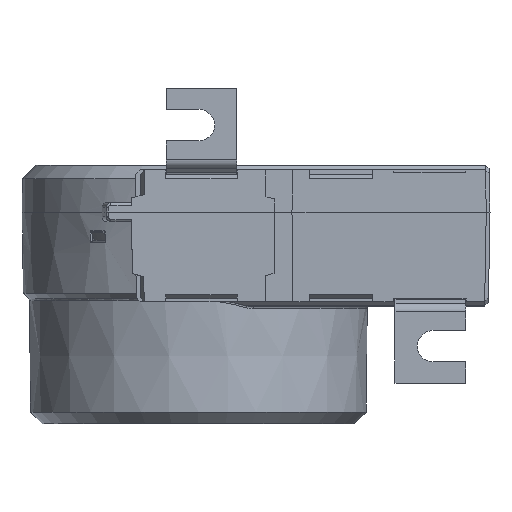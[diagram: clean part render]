
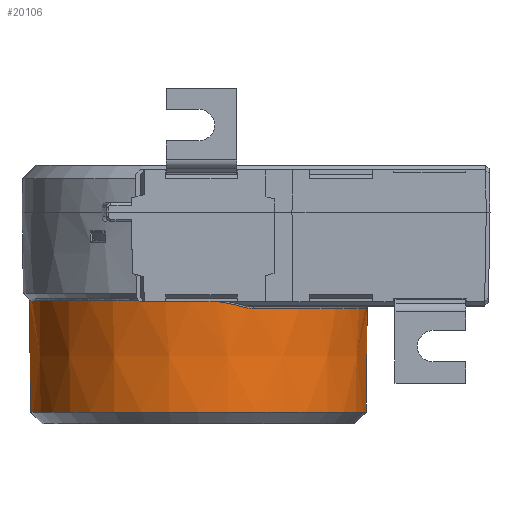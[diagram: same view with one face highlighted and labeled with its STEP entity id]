
A CAD part, front view. The second image highlights one B-rep face of the part: STEP entity #20106.
In plain terms, the highlighted conical face has half-angle 0.5 degrees and reference radius 35.9 mm.
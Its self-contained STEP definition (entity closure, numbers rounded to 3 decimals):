
#805 = CARTESIAN_POINT ( 'NONE',  ( 11.377, -34.032, -15.496 ) ) ;
#818 = CARTESIAN_POINT ( 'NONE',  ( -12.354, -33.703, -14. ) ) ;
#956 = CARTESIAN_POINT ( 'NONE',  ( 11.12, -34.117, -15.479 ) ) ;
#1641 = EDGE_CURVE ( 'NONE', #17743, #31582, #29715, .T. ) ;
#2615 = CARTESIAN_POINT ( 'NONE',  ( -35.691, 0., -37.5 ) ) ;
#2786 = CARTESIAN_POINT ( 'NONE',  ( 35.883, 0., -15.496 ) ) ;
#2909 = VERTEX_POINT ( 'NONE', #5251 ) ;
#3012 = EDGE_CURVE ( 'NONE', #21436, #17743, #22492, .T. ) ;
#3211 = DIRECTION ( 'NONE',  ( 0., 0., 1. ) ) ;
#3771 = ORIENTED_EDGE ( 'NONE', *, *, #8050, .T. ) ;
#4131 = AXIS2_PLACEMENT_3D ( 'NONE', #18242, #40148, #21369 ) ;
#4136 = CARTESIAN_POINT ( 'NONE',  ( 10.609, -34.28, -15.414 ) ) ;
#4791 = B_SPLINE_CURVE_WITH_KNOTS ( 'NONE', 3,
 ( #39857, #8620, #15046, #36994, #18219, #40120 ),
 .UNSPECIFIED., .F., .F.,
 ( 4, 2, 4 ),
 ( 0., 0.003, 0.007 ),
 .UNSPECIFIED. ) ;
#5155 = EDGE_LOOP ( 'NONE', ( #3771, #11782, #20679, #7022, #23861, #21963, #21594, #18803, #38253 ) ) ;
#5251 = CARTESIAN_POINT ( 'NONE',  ( 35.691, 0., -37.5 ) ) ;
#7022 = ORIENTED_EDGE ( 'NONE', *, *, #12647, .T. ) ;
#7170 = LINE ( 'NONE', #19021, #11537 ) ;
#7174 = CARTESIAN_POINT ( 'NONE',  ( -12.421, -33.679, -13.935 ) ) ;
#7308 = CARTESIAN_POINT ( 'NONE',  ( 10.104, -34.432, -15.291 ) ) ;
#8050 = EDGE_CURVE ( 'NONE', #9800, #2909, #9707, .T. ) ;
#8620 = CARTESIAN_POINT ( 'NONE',  ( 9.077, -34.737, -14.982 ) ) ;
#8854 = CIRCLE ( 'NONE', #4131, 35.896 ) ;
#9680 = DIRECTION ( 'NONE',  ( -1., 0., 0. ) ) ;
#9707 = CIRCLE ( 'NONE', #22210, 35.691 ) ;
#9800 = VERTEX_POINT ( 'NONE', #2615 ) ;
#10224 = EDGE_CURVE ( 'NONE', #2909, #37218, #7170, .T. ) ;
#10311 = CARTESIAN_POINT ( 'NONE',  ( -12.556, -33.63, -13.805 ) ) ;
#11070 = DIRECTION ( 'NONE',  ( 0., 0., -1. ) ) ;
#11290 = CARTESIAN_POINT ( 'NONE',  ( -35.9, 0., -13.5 ) ) ;
#11537 = VECTOR ( 'NONE', #37818, 1000. ) ;
#11782 = ORIENTED_EDGE ( 'NONE', *, *, #10224, .T. ) ;
#12647 = EDGE_CURVE ( 'NONE', #29424, #26391, #16906, .T. ) ;
#13317 = CARTESIAN_POINT ( 'NONE',  ( -35.897, 0., -13.805 ) ) ;
#14497 = CARTESIAN_POINT ( 'NONE',  ( -12.354, -33.703, -14. ) ) ;
#15046 = CARTESIAN_POINT ( 'NONE',  ( 8.025, -34.998, -14.718 ) ) ;
#15728 = VERTEX_POINT ( 'NONE', #26231 ) ;
#15857 = DIRECTION ( 'NONE',  ( 0., 0., 1. ) ) ;
#16593 = LINE ( 'NONE', #11290, #32276 ) ;
#16613 = CARTESIAN_POINT ( 'NONE',  ( 0., 0., -15.496 ) ) ;
#16906 = B_SPLINE_CURVE_WITH_KNOTS ( 'NONE', 3,
 ( #22778, #805, #956, #4136, #26049, #7308 ),
 .UNSPECIFIED., .F., .F.,
 ( 4, 2, 4 ),
 ( 0., 0.001, 0.002 ),
 .UNSPECIFIED. ) ;
#17743 = VERTEX_POINT ( 'NONE', #34290 ) ;
#17881 = CARTESIAN_POINT ( 'NONE',  ( 10.104, -34.432, -15.291 ) ) ;
#18211 = EDGE_CURVE ( 'NONE', #15728, #21436, #8854, .T. ) ;
#18219 = CARTESIAN_POINT ( 'NONE',  ( 4.794, -35.59, -14.117 ) ) ;
#18242 = CARTESIAN_POINT ( 'NONE',  ( 0., 0., -14. ) ) ;
#18803 = ORIENTED_EDGE ( 'NONE', *, *, #1641, .T. ) ;
#19021 = CARTESIAN_POINT ( 'NONE',  ( 35.9, 0., -13.5 ) ) ;
#19661 = CIRCLE ( 'NONE', #33374, 35.883 ) ;
#19776 = DIRECTION ( 'NONE',  ( 1., 0., 0. ) ) ;
#20106 = ADVANCED_FACE ( 'NONE', ( #30259 ), #37629, .T. ) ;
#20679 = ORIENTED_EDGE ( 'NONE', *, *, #27842, .T. ) ;
#21369 = DIRECTION ( 'NONE',  ( 1., 0., 0. ) ) ;
#21436 = VERTEX_POINT ( 'NONE', #14497 ) ;
#21594 = ORIENTED_EDGE ( 'NONE', *, *, #3012, .T. ) ;
#21963 = ORIENTED_EDGE ( 'NONE', *, *, #18211, .T. ) ;
#21998 = CARTESIAN_POINT ( 'NONE',  ( 0., 0., -37.5 ) ) ;
#22210 = AXIS2_PLACEMENT_3D ( 'NONE', #21998, #3211, #25141 ) ;
#22492 =( BOUNDED_CURVE ( )  B_SPLINE_CURVE ( 3, ( #818, #7174, #29070, #10311 ),
 .UNSPECIFIED., .F., .F. ) 
 B_SPLINE_CURVE_WITH_KNOTS ( ( 4, 4 ),
 ( 5.056, 5.062 ),
 .UNSPECIFIED. ) 
 CURVE ( )  GEOMETRIC_REPRESENTATION_ITEM ( )  RATIONAL_B_SPLINE_CURVE ( ( 1., 1., 1., 1. ) ) 
 REPRESENTATION_ITEM ( '' )  );
#22778 = CARTESIAN_POINT ( 'NONE',  ( 11.634, -33.944, -15.496 ) ) ;
#23861 = ORIENTED_EDGE ( 'NONE', *, *, #40324, .T. ) ;
#25141 = DIRECTION ( 'NONE',  ( 1., 0., 0. ) ) ;
#25284 = CARTESIAN_POINT ( 'NONE',  ( 0., 0., -13.5 ) ) ;
#25967 = AXIS2_PLACEMENT_3D ( 'NONE', #25284, #15857, #9680 ) ;
#26049 = CARTESIAN_POINT ( 'NONE',  ( 10.355, -34.358, -15.366 ) ) ;
#26231 = CARTESIAN_POINT ( 'NONE',  ( 3.691, -35.705, -14. ) ) ;
#26391 = VERTEX_POINT ( 'NONE', #17881 ) ;
#27842 = EDGE_CURVE ( 'NONE', #37218, #29424, #19661, .T. ) ;
#29070 = CARTESIAN_POINT ( 'NONE',  ( -12.488, -33.654, -13.87 ) ) ;
#29424 = VERTEX_POINT ( 'NONE', #34234 ) ;
#29715 = CIRCLE ( 'NONE', #40709, 35.897 ) ;
#29842 = CARTESIAN_POINT ( 'NONE',  ( 0., 0., -13.805 ) ) ;
#30060 = DIRECTION ( 'NONE',  ( -0.009, 0., 1. ) ) ;
#30150 = EDGE_CURVE ( 'NONE', #9800, #31582, #16593, .T. ) ;
#30259 = FACE_OUTER_BOUND ( 'NONE', #5155, .T. ) ;
#31582 = VERTEX_POINT ( 'NONE', #13317 ) ;
#32276 = VECTOR ( 'NONE', #30060, 1000. ) ;
#32992 = DIRECTION ( 'NONE',  ( 1., 0., 0. ) ) ;
#33374 = AXIS2_PLACEMENT_3D ( 'NONE', #16613, #38558, #19776 ) ;
#34234 = CARTESIAN_POINT ( 'NONE',  ( 11.634, -33.944, -15.496 ) ) ;
#34290 = CARTESIAN_POINT ( 'NONE',  ( -12.556, -33.63, -13.805 ) ) ;
#36994 = CARTESIAN_POINT ( 'NONE',  ( 5.886, -35.424, -14.285 ) ) ;
#37218 = VERTEX_POINT ( 'NONE', #2786 ) ;
#37629 = CONICAL_SURFACE ( 'NONE', #25967, 35.9, 0.009 ) ;
#37818 = DIRECTION ( 'NONE',  ( 0.009, 0., 1. ) ) ;
#38253 = ORIENTED_EDGE ( 'NONE', *, *, #30150, .F. ) ;
#38558 = DIRECTION ( 'NONE',  ( 0., 0., -1. ) ) ;
#39857 = CARTESIAN_POINT ( 'NONE',  ( 10.104, -34.432, -15.291 ) ) ;
#40120 = CARTESIAN_POINT ( 'NONE',  ( 3.691, -35.705, -14. ) ) ;
#40148 = DIRECTION ( 'NONE',  ( 0., 0., -1. ) ) ;
#40324 = EDGE_CURVE ( 'NONE', #26391, #15728, #4791, .T. ) ;
#40709 = AXIS2_PLACEMENT_3D ( 'NONE', #29842, #11070, #32992 ) ;
